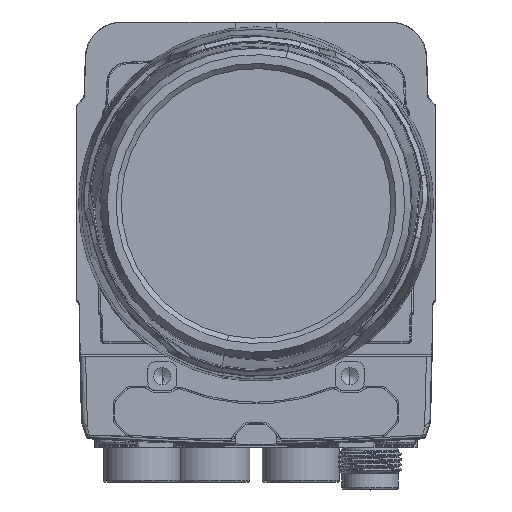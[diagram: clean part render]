
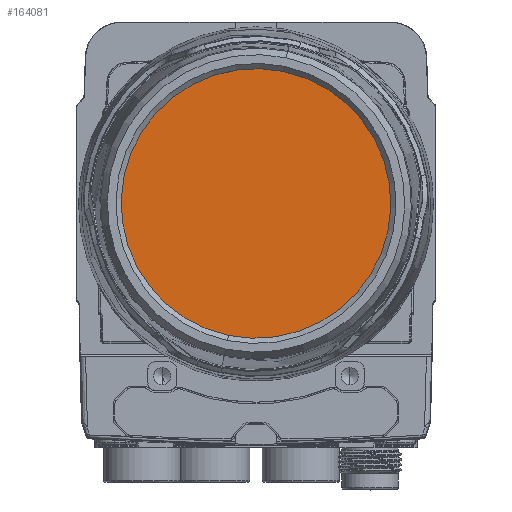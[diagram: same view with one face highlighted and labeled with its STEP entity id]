
A CAD part, top view. The second image highlights one B-rep face of the part: STEP entity #164081.
In plain terms, the highlighted planar face has unit normal (0, 0, 1).
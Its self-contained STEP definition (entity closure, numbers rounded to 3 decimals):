
#1708 = DIRECTION ( 'NONE',  ( 0., 0., 1. ) ) ;
#7823 = EDGE_CURVE ( 'NONE', #96542, #82072, #70432, .T. ) ;
#10286 = CARTESIAN_POINT ( 'NONE',  ( 0., 0., 81.85 ) ) ;
#23104 = PLANE ( 'NONE',  #212076 ) ;
#27926 = AXIS2_PLACEMENT_3D ( 'NONE', #10286, #146699, #180895 ) ;
#31215 = ORIENTED_EDGE ( 'NONE', *, *, #7823, .T. ) ;
#70432 = CIRCLE ( 'NONE', #27926, 25.883 ) ;
#78666 = CARTESIAN_POINT ( 'NONE',  ( -5.267, -25.341, 81.85 ) ) ;
#82072 = VERTEX_POINT ( 'NONE', #78666 ) ;
#88338 = DIRECTION ( 'NONE',  ( 0.979, -0.204, 0. ) ) ;
#91969 = EDGE_LOOP ( 'NONE', ( #164818, #31215 ) ) ;
#96542 = VERTEX_POINT ( 'NONE', #177160 ) ;
#105393 = DIRECTION ( 'NONE',  ( 0., 0., 1. ) ) ;
#138133 = CARTESIAN_POINT ( 'NONE',  ( 0., 0., 81.85 ) ) ;
#146699 = DIRECTION ( 'NONE',  ( 0., 0., 1. ) ) ;
#148812 = AXIS2_PLACEMENT_3D ( 'NONE', #155255, #1708, #172306 ) ;
#155255 = CARTESIAN_POINT ( 'NONE',  ( 0., 0., 81.85 ) ) ;
#164081 = ADVANCED_FACE ( 'NONE', ( #208646 ), #23104, .T. ) ;
#164818 = ORIENTED_EDGE ( 'NONE', *, *, #188094, .T. ) ;
#172306 = DIRECTION ( 'NONE',  ( 0.204, 0.979, 0. ) ) ;
#177160 = CARTESIAN_POINT ( 'NONE',  ( 5.267, 25.341, 81.85 ) ) ;
#180895 = DIRECTION ( 'NONE',  ( 0.204, 0.979, 0. ) ) ;
#188094 = EDGE_CURVE ( 'NONE', #82072, #96542, #208571, .T. ) ;
#208571 = CIRCLE ( 'NONE', #148812, 25.883 ) ;
#208646 = FACE_OUTER_BOUND ( 'NONE', #91969, .T. ) ;
#212076 = AXIS2_PLACEMENT_3D ( 'NONE', #138133, #105393, #88338 ) ;
